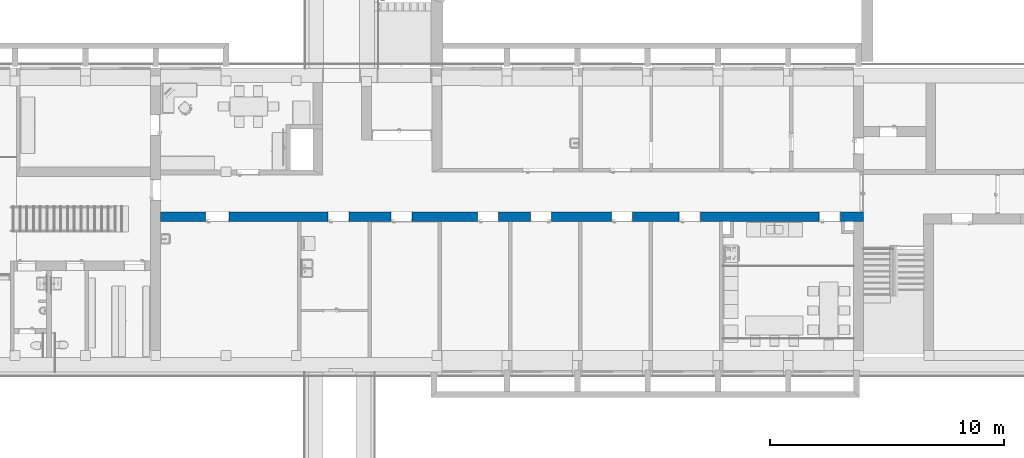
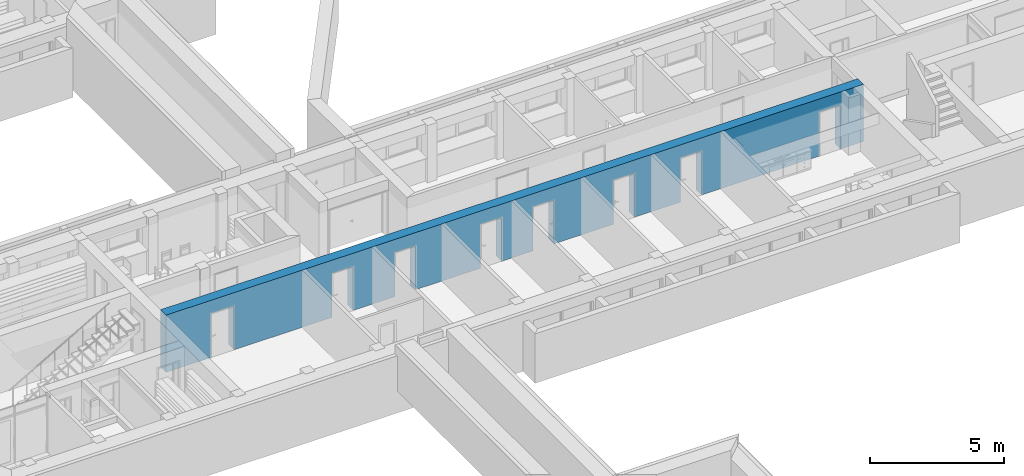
# One storey, part 6 of 127: 1 wall, 9 openings.
"""IFC2X3 building model written with IfcOpenShell, lengths in millimetres."""

import ifcopenshell
import ifcopenshell.guid

model = None  # the IFC model being written
_history = None  # IfcOwnerHistory: only IFC2X3 demands one
_inside = {}  # id of a spatial element -> (the spatial element, [elements in it])
_under = {}  # id of a project, library or spatial element -> (it, [spatial elements below it])
_declared = {}  # id of a project -> (the project, [libraries it declares])
_typed = {}  # id of a type object -> (the type object, [elements of that type])
_made_of = {}  # id of a material, layer set ... -> (it, [elements and type objects made of it])


def new_model(schema):
    """Start an empty IFC model of exactly this schema.

    Asked for "IFC4X3", IfcOpenShell would pick the latest addendum, in which some entities
    have other attributes; the version numbers below select the first issue.
    IFC2X3 requires an IfcOwnerHistory on every rooted entity: one is made here for all.
    """
    global model, _history
    if schema == "IFC4X3":
        model = ifcopenshell.file(schema_version=(4, 3, 0, 0))
    else:
        model = ifcopenshell.file(schema=schema)
    _inside.clear()
    _under.clear()
    _declared.clear()
    _typed.clear()
    _made_of.clear()
    _history = None
    if model.schema == "IFC2X3":
        org = make("IfcOrganization", Name="unknown")
        user = make(
            "IfcPersonAndOrganization",
            ThePerson=make("IfcPerson", FamilyName="unknown"),
            TheOrganization=org,
        )
        app = make(
            "IfcApplication",
            ApplicationDeveloper=org,
            Version="unknown",
            ApplicationFullName="unknown",
            ApplicationIdentifier="unknown",
        )
        _history = make(
            "IfcOwnerHistory",
            OwningUser=user,
            OwningApplication=app,
            ChangeAction="ADDED",
            CreationDate=0,
        )
    return model


def make(cls, **values):
    """One entity of the class cls with the attributes given. An attribute that is None is left unset."""
    return model.create_entity(
        cls, **{name: value for name, value in values.items() if value is not None}
    )


def entity(cls, *values):
    """Any entity or typed value of the class cls, its attributes in the order of the schema. None: left unset."""
    e = model.create_entity(cls)
    for i, value in enumerate(values):
        if value is not None:
            e[i] = value
    return e


def rooted(cls, **values):
    """An entity with a GlobalId (a new one), such as an element, a storey or a relation."""
    return make(cls, GlobalId=ifcopenshell.guid.new(), OwnerHistory=_history, **values)


def si_unit(unit_type, name, prefix=None):
    """IfcSIUnit, for example si_unit("LENGTHUNIT", "METRE", prefix="MILLI")."""
    return make("IfcSIUnit", UnitType=unit_type, Prefix=prefix, Name=name)


def converted_unit(unit_type, name, factor, base, dimensions=None, offset=None):
    """IfcConversionBasedUnit, such as the inch: factor (a typed value) times the base unit."""
    return make(
        "IfcConversionBasedUnit"
        if offset is None
        else "IfcConversionBasedUnitWithOffset",
        ConversionOffset=offset,
        Dimensions=None
        if dimensions is None
        else entity("IfcDimensionalExponents", *dimensions),
        UnitType=unit_type,
        Name=name,
        ConversionFactor=make(
            "IfcMeasureWithUnit", ValueComponent=factor, UnitComponent=base
        ),
    )


def derived_unit(unit_type, elements):
    """IfcDerivedUnit: a product of units, each with its exponent."""
    return make(
        "IfcDerivedUnit",
        Elements=[
            make("IfcDerivedUnitElement", Unit=unit, Exponent=power)
            for unit, power in elements
        ],
        UnitType=unit_type,
    )


def money_unit(currency):
    """IfcMonetaryUnit."""
    return make("IfcMonetaryUnit", Currency=currency)


def assignment(units):
    """IfcUnitAssignment: the units of a project."""
    return None if units is None else make("IfcUnitAssignment", Units=units)


def point(xyz):
    """IfcCartesianPoint."""
    return None if xyz is None else make("IfcCartesianPoint", Coordinates=xyz)


def direction(xyz):
    """IfcDirection."""
    return None if xyz is None else make("IfcDirection", DirectionRatios=xyz)


def frame(location, z_axis=None, x_axis=None):
    """IfcAxis2Placement3D, a coordinate frame: its origin and axes. An axis left out is left unset."""
    return make(
        "IfcAxis2Placement3D",
        Location=point(location),
        Axis=direction(z_axis),
        RefDirection=direction(x_axis),
    )


def frame_2d(location, x_axis=None):
    """IfcAxis2Placement2D, a coordinate frame in the plane: its origin and x axis."""
    return make(
        "IfcAxis2Placement2D", Location=point(location), RefDirection=direction(x_axis)
    )


def origin_with_axes():
    """The frame at (0, 0, 0) with the z axis (0, 0, 1) and the x axis (1, 0, 0) written out."""
    return frame((0.0, 0.0, 0.0), z_axis=(0.0, 0.0, 1.0), x_axis=(1.0, 0.0, 0.0))


def origin_2d_with_axis():
    """The frame at (0, 0) in the plane with the x axis (1, 0) written out."""
    return frame_2d((0.0, 0.0), x_axis=(1.0, 0.0))


def place(relative_to, where):
    """IfcLocalPlacement: puts the frame where relative to a parent placement (None: the world)."""
    return make(
        "IfcLocalPlacement", PlacementRelTo=relative_to, RelativePlacement=where
    )


def context(
    kind, dimensions, precision=None, world=None, true_north=None, identifier=None
):
    """IfcGeometricRepresentationContext, for example the 3D "Model" context."""
    return make(
        "IfcGeometricRepresentationContext",
        ContextIdentifier=identifier,
        ContextType=kind,
        CoordinateSpaceDimension=dimensions,
        Precision=precision,
        WorldCoordinateSystem=world,
        TrueNorth=true_north,
    )


def subcontext(parent, identifier, kind, view, scale=None):
    """IfcGeometricRepresentationSubContext, for example "Body" below "Model"."""
    return make(
        "IfcGeometricRepresentationSubContext",
        ContextIdentifier=identifier,
        ContextType=kind,
        ParentContext=parent,
        TargetScale=scale,
        TargetView=view,
    )


def project(units=None, contexts=None):
    """IfcProject with its units and contexts."""
    return rooted(
        "IfcProject",
        Name="project",
        RepresentationContexts=contexts,
        UnitsInContext=assignment(units),
    )


def spatial(cls, under=None, at=None, **own):
    """A site, building, storey or space (cls), placed at a placement, below another one or the project."""
    s = rooted(cls, ObjectPlacement=at, **own)
    if under is not None:
        _under.setdefault(under.id(), (under, []))[1].append(s)
    return s


def polyline(points):
    """IfcPolyline through the points."""
    return make("IfcPolyline", Points=[point(p) for p in points])


def profile(cls, at=None, kind="AREA", **sizes):
    """A parametric profile (cls). Its sizes go by their IFC names, for example OverallWidth=200.0."""
    return make(cls, ProfileType=kind, Position=at, **sizes)


def rectangle(**sizes):
    """IfcRectangleProfileDef."""
    return profile("IfcRectangleProfileDef", **sizes)


def outline(outer, holes=None, kind="AREA"):
    """IfcArbitraryClosedProfileDef: a profile drawn as a closed curve; with holes, ...WithVoids."""
    if holes is None:
        return make("IfcArbitraryClosedProfileDef", ProfileType=kind, OuterCurve=outer)
    return make(
        "IfcArbitraryProfileDefWithVoids",
        ProfileType=kind,
        OuterCurve=outer,
        InnerCurves=holes,
    )


def extrude(swept, where, along, depth):
    """IfcExtrudedAreaSolid: the profile swept, set in the frame where, extruded along a direction by depth."""
    return make(
        "IfcExtrudedAreaSolid",
        SweptArea=swept,
        Position=where,
        ExtrudedDirection=direction(along),
        Depth=depth,
    )


def shape(context_of_items, identifier, shape_type, items):
    """IfcShapeRepresentation: the items that make up one representation, for example the "Body"."""
    return make(
        "IfcShapeRepresentation",
        ContextOfItems=context_of_items,
        RepresentationIdentifier=identifier,
        RepresentationType=shape_type,
        Items=items,
    )


def material(Name=None, Category=None):
    """IfcMaterial."""
    return make("IfcMaterial", Name=Name, Category=Category)


def layer(
    of_material, thickness, ventilated=None, Name=None, Category=None, Priority=None
):
    """IfcMaterialLayer: one layer of a wall or slab, of a material (None: an air gap)."""
    return make(
        "IfcMaterialLayer",
        Material=of_material,
        LayerThickness=thickness,
        IsVentilated=ventilated,
        Name=Name,
        Category=Category,
        Priority=Priority,
    )


def layer_set(layers, Name=None):
    """IfcMaterialLayerSet."""
    return make("IfcMaterialLayerSet", MaterialLayers=layers, LayerSetName=Name)


def layer_usage(for_layer_set, set_direction, sense, offset, extent=None):
    """IfcMaterialLayerSetUsage: how a layer set lies in its element."""
    return make(
        "IfcMaterialLayerSetUsage",
        ForLayerSet=for_layer_set,
        LayerSetDirection=set_direction,
        DirectionSense=sense,
        OffsetFromReferenceLine=offset,
        ReferenceExtent=extent,
    )


def made_of(thing, what):
    """Note that an element or type object is made of a material, layer set ...; save() writes the relation."""
    if what is not None:
        _made_of.setdefault(what.id(), (what, []))[1].append(thing)
    return thing


def type_object(cls, material=None, **own):
    """A type object (cls), such as IfcWallType, which elements share."""
    return made_of(rooted(cls, **own), material)


def element(
    cls,
    number,
    at=None,
    inside=None,
    cuts=None,
    type_object=None,
    material=None,
    context=None,
    identifier="Body",
    shape_type=None,
    held_by="IfcProductDefinitionShape",
    body=None,
    shapes=None,
    **own,
):
    """One element of the class cls, such as IfcWall. Its Tag is "e" and its number.

    at: its placement. inside: the storey or other place that contains it. cuts: it is an
    opening in that element (IfcRelVoidsElement). A single representation is given by context,
    identifier, shape_type and body (its items); several are given by shapes. held_by: the class
    of the entity that holds the representations. save() writes the other relations.
    """
    e = rooted(cls, Tag="e%d" % number, ObjectPlacement=at, **own)
    if body is not None:
        shapes = [shape(context, identifier, shape_type, body)]
    if shapes is not None:
        e.Representation = make(held_by, Representations=shapes)
    if inside is not None:
        _inside.setdefault(inside.id(), (inside, []))[1].append(e)
    if cuts is not None:
        rooted(
            "IfcRelVoidsElement", RelatingBuildingElement=cuts, RelatedOpeningElement=e
        )
    if type_object is not None:
        _typed.setdefault(type_object.id(), (type_object, []))[1].append(e)
    return made_of(e, material)


def aggregate(whole, parts):
    """IfcRelAggregates: a whole, such as a stair, and the parts it consists of."""
    return rooted("IfcRelAggregates", RelatingObject=whole, RelatedObjects=parts)


def save(model, path):
    """Write the relations noted so far, then the file.

    IfcRelAggregates (storeys below a building ...), IfcRelContainedInSpatialStructure (elements
    in a storey), IfcRelDefinesByType, IfcRelAssociatesMaterial and IfcRelDeclares: one each for
    every whole, place, type object, material and project.
    """
    for whole, parts in _under.values():
        aggregate(whole, parts)
    for where, things in _inside.values():
        rooted(
            "IfcRelContainedInSpatialStructure",
            RelatedElements=things,
            RelatingStructure=where,
        )
    for kind, things in _typed.values():
        rooted("IfcRelDefinesByType", RelatedObjects=things, RelatingType=kind)
    for what, things in _made_of.values():
        rooted("IfcRelAssociatesMaterial", RelatedObjects=things, RelatingMaterial=what)
    for by, libraries in _declared.values():
        rooted("IfcRelDeclares", RelatingContext=by, RelatedDefinitions=libraries)
    model.write(path)


model = new_model("IFC2X3")

# Units and contexts
model_context = context("Model", 3, precision=1e-05, world=origin_with_axes(), true_north=direction((0.0, 1.0)))
body_context = subcontext(model_context, "Body", "Model", "MODEL_VIEW")
ifc_project = project(units=[si_unit("LENGTHUNIT", "METRE", prefix="MILLI"), si_unit("AREAUNIT", "SQUARE_METRE"), si_unit("VOLUMEUNIT", "CUBIC_METRE"), converted_unit("PLANEANGLEUNIT", "DEGREE", entity("IfcPlaneAngleMeasure", 0.0174532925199), si_unit("PLANEANGLEUNIT", "RADIAN"), dimensions=[0, 0, 0, 0, 0, 0, 0]), si_unit("SOLIDANGLEUNIT", "STERADIAN"), money_unit("EUR"), converted_unit("TIMEUNIT", "Year", entity("IfcTimeMeasure", 31556926.0), si_unit("TIMEUNIT", "SECOND"), dimensions=[0, 0, 1, 0, 0, 0, 0]), si_unit("MASSUNIT", "GRAM", prefix="KILO"), si_unit("THERMODYNAMICTEMPERATUREUNIT", "DEGREE_CELSIUS"), si_unit("LUMINOUSINTENSITYUNIT", "LUMEN"), si_unit("ENERGYUNIT", "JOULE", prefix="MEGA"), derived_unit("THERMALCONDUCTANCEUNIT", [(si_unit("POWERUNIT", "WATT"), 1), (si_unit("LENGTHUNIT", "METRE"), -1), (si_unit("THERMODYNAMICTEMPERATUREUNIT", "KELVIN"), -1)]), derived_unit("SPECIFICHEATCAPACITYUNIT", [(si_unit("ENERGYUNIT", "JOULE"), 1), (si_unit("MASSUNIT", "GRAM", prefix="KILO"), -1), (si_unit("THERMODYNAMICTEMPERATUREUNIT", "KELVIN"), -1)]), derived_unit("MASSDENSITYUNIT", [(si_unit("MASSUNIT", "GRAM", prefix="KILO"), 1), (si_unit("VOLUMEUNIT", "CUBIC_METRE"), -1)])], contexts=[model_context])

# Site, building, storey
site_placement = place(None, origin_with_axes())
site = spatial("IfcSite", under=ifc_project, at=site_placement, Name="Site", CompositionType="ELEMENT")
building_placement = place(site_placement, origin_with_axes())
building = spatial("IfcBuilding", under=site, at=building_placement, Name="Building", CompositionType="ELEMENT")
storey_placement = place(building_placement, origin_with_axes())
storey = spatial("IfcBuildingStorey", under=building, at=storey_placement, Name="1 KORRUS", CompositionType="ELEMENT", Elevation=0.0)

# Wall, openings
ifc_material = material(Name="Kivi -Ol.Olev Konstruktsioon")
ifc_layer = layer(ifc_material, 420.0, ventilated="UNKNOWN")
ifc_layer_set = layer_set([ifc_layer], Name="ol.olev ss 420")
ifc_layer_usage = layer_usage(ifc_layer_set, "AXIS2", "POSITIVE", 0.0)
wall_type = type_object("IfcWallType", Name="SW - 022", PredefinedType="NOTDEFINED")
wall_placement = place(storey_placement, frame((61155.1742919, 41101.6242698, 0.0), z_axis=(0.0, 0.0, 1.0), x_axis=(-1.0, 0.0, 0.0)))
wall = element("IfcWallStandardCase", 1, at=wall_placement, inside=storey, type_object=wall_type, material=ifc_layer_usage, Name="ol.olev ss 420", context=body_context, shape_type="SweptSolid", body=[
    extrude(outline(polyline([(0.0, 0.0), (30001.3736561, 0.0), (30001.3736561, 420.0), (0.0, 420.0), (0.0, 0.0)])), origin_with_axes(), (0.0, 0.0, 1.0), 2600.0),
])
opening_1_placement = place(wall_placement, frame((27584.5969835, 0.0, 0.0), z_axis=(0.0, 0.0, 1.0), x_axis=(1.0, 0.0, 0.0)))
element("IfcOpeningElement", 2, at=opening_1_placement, cuts=wall, Name="Siseuks * Door 22", context=body_context, shape_type="SweptSolid", body=[
    extrude(rectangle(XDim=1000.0, YDim=2000.0, at=origin_2d_with_axis()), frame((0.0, -420.0, 1000.0), z_axis=(0.0, -1.0, 0.0), x_axis=(-1.0, 0.0, 0.0)), (0.0, 0.0, -1.0), 1260.0),
    extrude(rectangle(XDim=1074.0, YDim=2037.0, at=origin_2d_with_axis()), frame((0.0, 0.0, 1018.5), z_axis=(0.0, -1.0, 0.0), x_axis=(-1.0, 0.0, 0.0)), (0.0, 0.0, 1.0), 420.0),
    extrude(rectangle(XDim=1074.0, YDim=2037.0, at=origin_2d_with_axis()), frame((0.0, 420.0, 1018.5), z_axis=(0.0, 1.0, 0.0), x_axis=(-1.0, 0.0, 0.0)), (0.0, 0.0, 1.0), 420.0),
])
opening_2_placement = place(wall_placement, frame((22407.1597148, 0.0, 0.0), z_axis=(0.0, 0.0, 1.0), x_axis=(1.0, 0.0, 0.0)))
element("IfcOpeningElement", 3, at=opening_2_placement, cuts=wall, Name="Siseuks * Door 22", context=body_context, shape_type="SweptSolid", body=[
    extrude(rectangle(XDim=900.0, YDim=2000.0, at=origin_2d_with_axis()), frame((0.0, -420.0, 1000.0), z_axis=(0.0, -1.0, 0.0), x_axis=(-1.0, 0.0, 0.0)), (0.0, 0.0, -1.0), 1260.0),
    extrude(rectangle(XDim=974.0, YDim=2037.0, at=origin_2d_with_axis()), frame((0.0, 0.0, 1018.5), z_axis=(0.0, -1.0, 0.0), x_axis=(-1.0, 0.0, 0.0)), (0.0, 0.0, 1.0), 420.0),
    extrude(rectangle(XDim=974.0, YDim=2037.0, at=origin_2d_with_axis()), frame((0.0, 420.0, 1018.5), z_axis=(0.0, 1.0, 0.0), x_axis=(-1.0, 0.0, 0.0)), (0.0, 0.0, 1.0), 420.0),
])
opening_3_placement = place(wall_placement, frame((19713.9839132, 0.0, 0.0), z_axis=(0.0, 0.0, 1.0), x_axis=(1.0, 0.0, 0.0)))
element("IfcOpeningElement", 4, at=opening_3_placement, cuts=wall, Name="Siseuks * Door 22", context=body_context, shape_type="SweptSolid", body=[
    extrude(rectangle(XDim=900.0, YDim=2000.0, at=origin_2d_with_axis()), frame((0.0, -420.0, 1000.0), z_axis=(0.0, -1.0, 0.0), x_axis=(-1.0, 0.0, 0.0)), (0.0, 0.0, -1.0), 1260.0),
    extrude(rectangle(XDim=974.0, YDim=2037.0, at=origin_2d_with_axis()), frame((0.0, 0.0, 1018.5), z_axis=(0.0, -1.0, 0.0), x_axis=(-1.0, 0.0, 0.0)), (0.0, 0.0, 1.0), 420.0),
    extrude(rectangle(XDim=974.0, YDim=2037.0, at=origin_2d_with_axis()), frame((0.0, 420.0, 1018.5), z_axis=(0.0, 1.0, 0.0), x_axis=(-1.0, 0.0, 0.0)), (0.0, 0.0, 1.0), 420.0),
])
opening_4_placement = place(wall_placement, frame((10301.3721425, 0.0, 0.0), z_axis=(0.0, 0.0, 1.0), x_axis=(1.0, 0.0, 0.0)))
element("IfcOpeningElement", 5, at=opening_4_placement, cuts=wall, Name="Siseuks * Door 22", context=body_context, shape_type="SweptSolid", body=[
    extrude(rectangle(XDim=900.0, YDim=2000.0, at=origin_2d_with_axis()), frame((0.0, -420.0, 1000.0), z_axis=(0.0, -1.0, 0.0), x_axis=(-1.0, 0.0, 0.0)), (0.0, 0.0, -1.0), 1260.0),
    extrude(rectangle(XDim=974.0, YDim=2037.0, at=origin_2d_with_axis()), frame((0.0, 0.0, 1018.5), z_axis=(0.0, -1.0, 0.0), x_axis=(-1.0, 0.0, 0.0)), (0.0, 0.0, 1.0), 420.0),
    extrude(rectangle(XDim=974.0, YDim=2037.0, at=origin_2d_with_axis()), frame((0.0, 420.0, 1018.5), z_axis=(0.0, 1.0, 0.0), x_axis=(-1.0, 0.0, 0.0)), (0.0, 0.0, 1.0), 420.0),
])
opening_5_placement = place(wall_placement, frame((7414.15015353, 0.0, 0.0), z_axis=(0.0, 0.0, 1.0), x_axis=(1.0, 0.0, 0.0)))
element("IfcOpeningElement", 6, at=opening_5_placement, cuts=wall, Name="Siseuks * Door 22", context=body_context, shape_type="SweptSolid", body=[
    extrude(rectangle(XDim=900.0, YDim=2000.0, at=origin_2d_with_axis()), frame((0.0, -420.0, 1000.0), z_axis=(0.0, -1.0, 0.0), x_axis=(-1.0, 0.0, 0.0)), (0.0, 0.0, -1.0), 1260.0),
    extrude(rectangle(XDim=974.0, YDim=2037.0, at=origin_2d_with_axis()), frame((0.0, 0.0, 1018.5), z_axis=(0.0, -1.0, 0.0), x_axis=(-1.0, 0.0, 0.0)), (0.0, 0.0, 1.0), 420.0),
    extrude(rectangle(XDim=974.0, YDim=2037.0, at=origin_2d_with_axis()), frame((0.0, 420.0, 1018.5), z_axis=(0.0, 1.0, 0.0), x_axis=(-1.0, 0.0, 0.0)), (0.0, 0.0, 1.0), 420.0),
])
opening_6_placement = place(wall_placement, frame((1439.099864, 0.0, 0.0), z_axis=(0.0, 0.0, 1.0), x_axis=(1.0, 0.0, 0.0)))
element("IfcOpeningElement", 7, at=opening_6_placement, cuts=wall, Name="Siseuks * Door 22", context=body_context, shape_type="SweptSolid", body=[
    extrude(rectangle(XDim=900.0, YDim=2000.0, at=origin_2d_with_axis()), frame((0.0, -420.0, 1000.0), z_axis=(0.0, -1.0, 0.0), x_axis=(-1.0, 0.0, 0.0)), (0.0, 0.0, -1.0), 1260.0),
    extrude(rectangle(XDim=974.0, YDim=2037.0, at=origin_2d_with_axis()), frame((0.0, 0.0, 1018.5), z_axis=(0.0, -1.0, 0.0), x_axis=(-1.0, 0.0, 0.0)), (0.0, 0.0, 1.0), 420.0),
    extrude(rectangle(XDim=974.0, YDim=2037.0, at=origin_2d_with_axis()), frame((0.0, 420.0, 1018.5), z_axis=(0.0, 1.0, 0.0), x_axis=(-1.0, 0.0, 0.0)), (0.0, 0.0, 1.0), 420.0),
])
opening_7_placement = place(wall_placement, frame((-1286.25326179, 0.0, 0.0), z_axis=(0.0, 0.0, 1.0), x_axis=(1.0, 0.0, 0.0)))
element("IfcOpeningElement", 8, at=opening_7_placement, cuts=wall, Name="Background;  Objekti nimi: Simple Door Opening", context=body_context, shape_type="SweptSolid", body=[
    extrude(rectangle(XDim=2558.91485293, YDim=2300.0, at=origin_2d_with_axis()), frame((0.0, 420.0, 1150.0), z_axis=(0.0, -1.0, 0.0), x_axis=(1.0, 0.0, 0.0)), (0.0, 0.0, -1.0), 420.0),
    extrude(rectangle(XDim=2558.91485293, YDim=2300.0, at=origin_2d_with_axis()), frame((0.0, 420.0, 1150.0), z_axis=(0.0, 1.0, 0.0), x_axis=(1.0, 0.0, 0.0)), (0.0, 0.0, -1.0), 420.0),
])
opening_8_placement = place(wall_placement, frame((16017.0589027, 0.0, 0.0), z_axis=(0.0, 0.0, 1.0), x_axis=(1.0, 0.0, 0.0)))
element("IfcOpeningElement", 9, at=opening_8_placement, cuts=wall, Name="Siseuks * Door 22", context=body_context, shape_type="SweptSolid", body=[
    extrude(rectangle(XDim=900.0, YDim=2000.0, at=origin_2d_with_axis()), frame((0.0, -420.0, 1000.0), z_axis=(0.0, -1.0, 0.0), x_axis=(-1.0, 0.0, 0.0)), (0.0, 0.0, -1.0), 1260.0),
    extrude(rectangle(XDim=974.0, YDim=2037.0, at=origin_2d_with_axis()), frame((0.0, 0.0, 1018.5), z_axis=(0.0, -1.0, 0.0), x_axis=(-1.0, 0.0, 0.0)), (0.0, 0.0, 1.0), 420.0),
    extrude(rectangle(XDim=974.0, YDim=2037.0, at=origin_2d_with_axis()), frame((0.0, 420.0, 1018.5), z_axis=(0.0, 1.0, 0.0), x_axis=(-1.0, 0.0, 0.0)), (0.0, 0.0, 1.0), 420.0),
])
opening_9_placement = place(wall_placement, frame((13765.1427811, 0.0, 0.0), z_axis=(0.0, 0.0, 1.0), x_axis=(1.0, 0.0, 0.0)))
element("IfcOpeningElement", 10, at=opening_9_placement, cuts=wall, Name="Siseuks * Door 22", context=body_context, shape_type="SweptSolid", body=[
    extrude(rectangle(XDim=900.0, YDim=2000.0, at=origin_2d_with_axis()), frame((0.0, -420.0, 1000.0), z_axis=(0.0, 1.0, 0.0), x_axis=(1.0, 0.0, 0.0)), (0.0, 0.0, 1.0), 1260.0),
    extrude(rectangle(XDim=974.0, YDim=2037.0, at=origin_2d_with_axis()), frame((0.0, 0.0, 1018.5), z_axis=(0.0, 1.0, 0.0), x_axis=(1.0, 0.0, 0.0)), (0.0, 0.0, -1.0), 420.0),
    extrude(rectangle(XDim=974.0, YDim=2037.0, at=origin_2d_with_axis()), frame((0.0, 420.0, 1018.5), z_axis=(0.0, -1.0, 0.0), x_axis=(1.0, 0.0, 0.0)), (0.0, 0.0, -1.0), 420.0),
])

save(model, "model.ifc")
